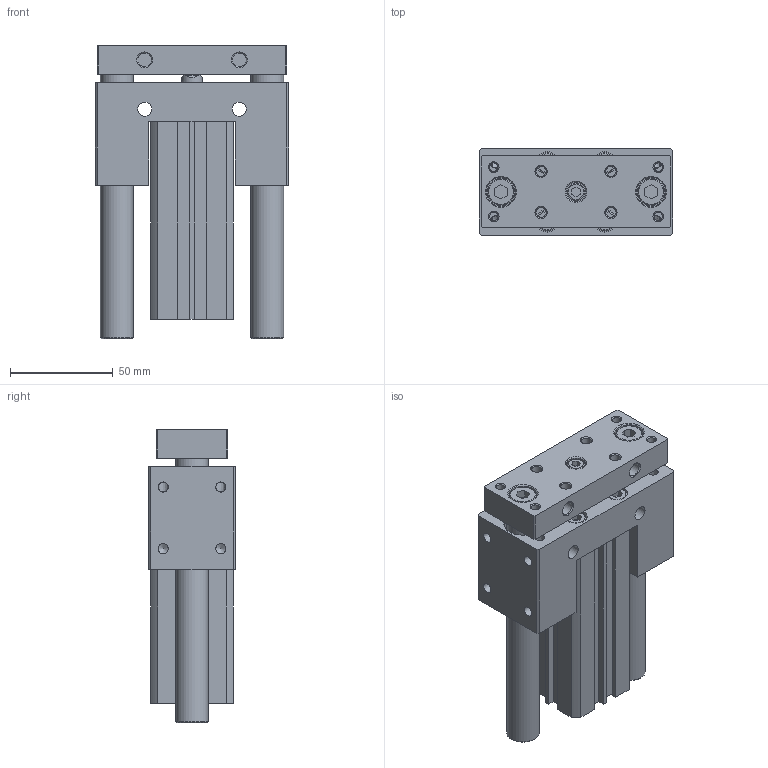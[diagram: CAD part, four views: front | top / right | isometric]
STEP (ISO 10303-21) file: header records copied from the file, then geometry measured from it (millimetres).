
FILE_DESCRIPTION((''),'2;1');
FILE_NAME('I:\3D電子目錄\氣缸\JCB\JCB\JCB25\JCB25x75.stp','2007-08-21T19:21:05',('Administrator'),(''),'Autodesk Inventor 11','Autodesk Inventor 11','');
FILE_SCHEMA(('AUTOMOTIVE_DESIGN { 1 0 10303 214 1 1 1 1 }'));
Length unit declared in the file: millimetre
Products named in the file (1): JCB25
Bounding box: 94 x 42 x 142.5 mm (x, y, z)
Volume: 326305.4 mm3; surface area: 91435.8 mm2
Topology: 5 solids, 5 shells, 323 faces, 740 edges, 483 vertices
Faces by surface type: plane 172, bspline 61, cylinder 47, cone 35, torus 8
Full cylindrical faces by diameter (mm): 1.5 x2, 4.917 x4, 5.1 x4, 6.647 x2, 8 x8, 8.5 x1, 10 x5, 11 x1, 13 x2, 16 x2, 17 x2, 18 x2, 28 x4, 29.4 x2
Entity records: 8980 total; most frequent: CARTESIAN_POINT 2309, DIRECTION 1332, ORIENTED_EDGE 1160, EDGE_CURVE 580, EDGE_LOOP 544, AXIS2_PLACEMENT_3D 493, VERTEX_POINT 454, VECTOR 346
